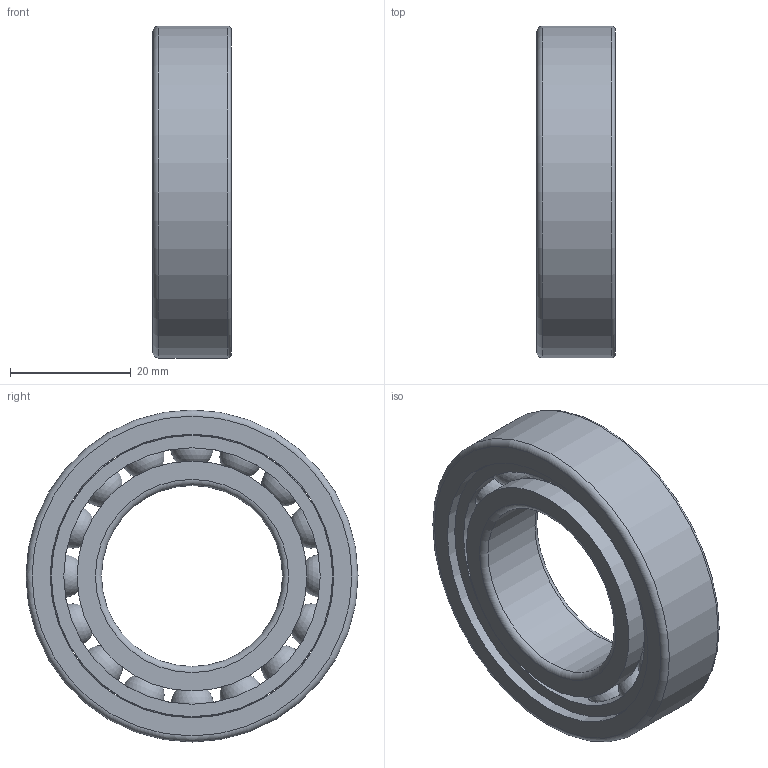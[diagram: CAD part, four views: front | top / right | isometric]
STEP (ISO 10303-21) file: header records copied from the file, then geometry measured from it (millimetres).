
FILE_DESCRIPTION(/* description */ (''),/* implementation_level */ '2;1');
FILE_NAME(/* name */ 'S_6006_TA.step',/* time_stamp */ '2013-03-06T14:43:28+01:00',/* author */ ('Marian'),/* organization */ ('GMN'),/* preprocessor_version */ 'ST-DEVELOPER v11',/* originating_system */ 'SIEMENS UGS NX 6.0',/* authorisation */ '');
FILE_SCHEMA (('CONFIG_CONTROL_DESIGN'));
Length unit declared in the file: millimetre
Products named in the file (1): S_6006_TA
Bounding box: 13 x 55 x 55 mm (x, y, z)
Volume: 16114.8 mm3; surface area: 14247.9 mm2
Topology: 19 solids, 19 shells, 52 faces, 134 edges, 86 vertices
Faces by surface type: cylinder 23, sphere 16, torus 6, plane 6, cone 1
Full cylindrical faces by diameter (mm): 7.344 x16, 30 x1, 38.1 x2, 42.484 x1, 46.6 x1, 47 x1, 55 x1
Entity records: 2962 total; most frequent: CARTESIAN_POINT 1997, DIRECTION 146, FACE_BOUND 120, EDGE_LOOP 104, ORIENTED_EDGE 104, AXIS2_PLACEMENT_3D 73, VERTEX_POINT 68, EDGE_CURVE 52
